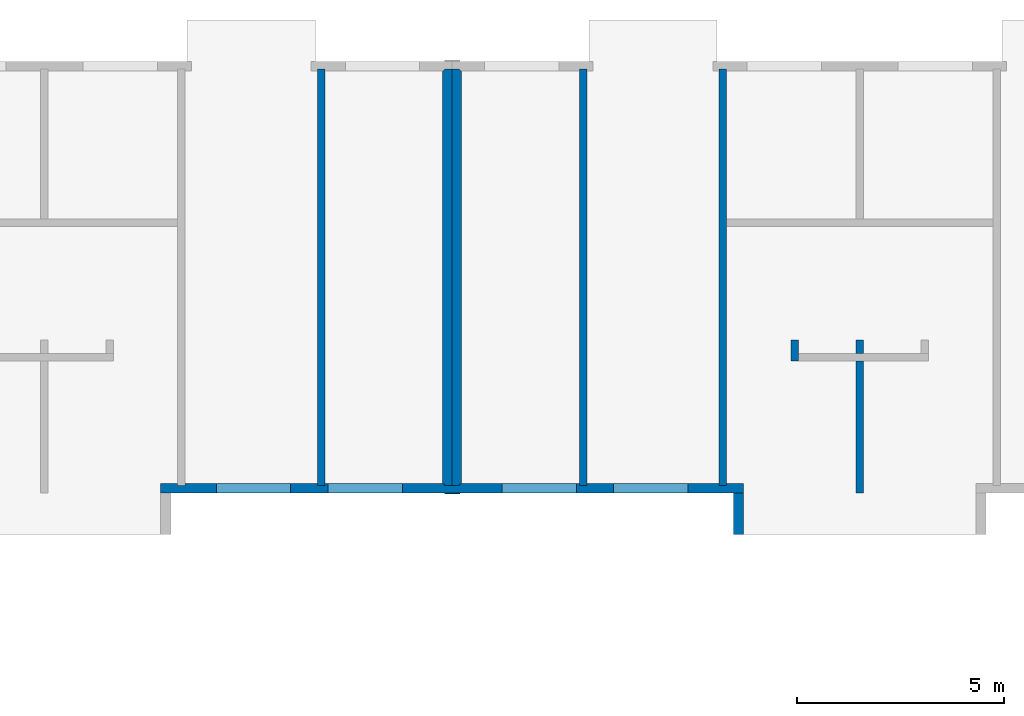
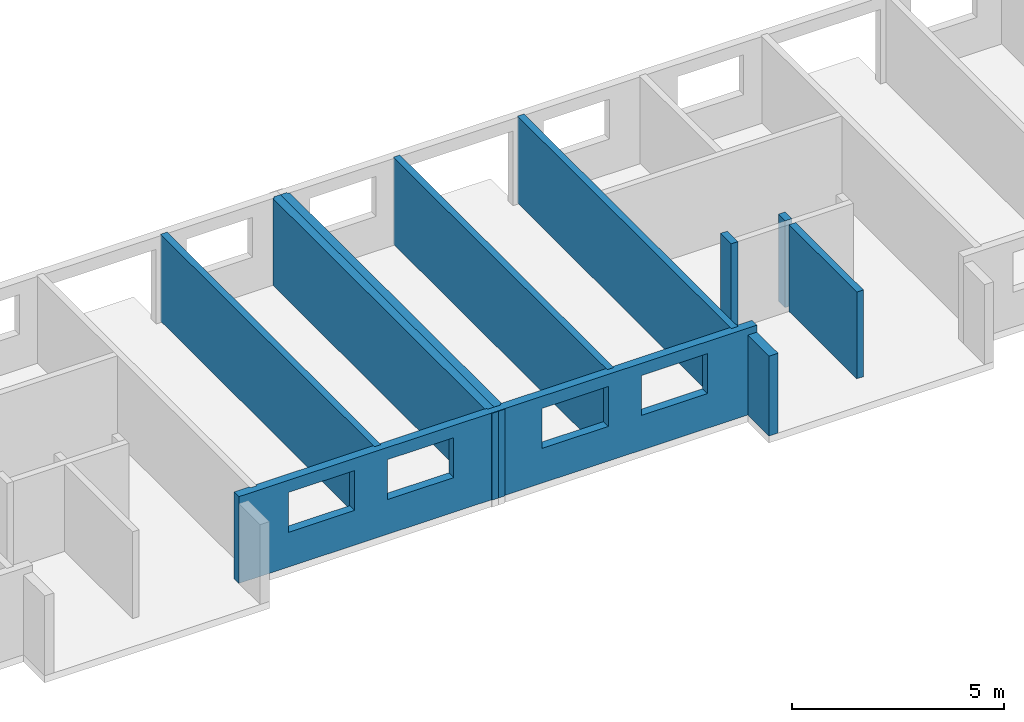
# One storey, part 3 of 9: 12 walls, 4 openings.
"""IFC2X3 building model written with IfcOpenShell, lengths in millimetres."""

from ifc_helpers import new_model, entity, si_unit, converted_unit, frame, frame_2d, origin, origin_with_axes, place, context, subcontext, project, spatial, polyline, rectangle, outline, extrude, material, layer, layer_set, layer_usage, element, save


model = new_model("IFC2X3")

# Units and contexts
model_context = context("Model", 3, precision=1e-05, world=origin())
plan_context = context("Plan", 3, precision=1e-05, world=origin())
body_context = subcontext(model_context, "Body", "Model", "MODEL_VIEW")
ifc_project = project(units=[si_unit("LENGTHUNIT", "METRE", prefix="MILLI"), converted_unit("PLANEANGLEUNIT", "DEGREE", entity("IfcPlaneAngleMeasure", 0.0174532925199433), si_unit("PLANEANGLEUNIT", "RADIAN"), dimensions=[0, 0, 0, 0, 0, 0, 0]), si_unit("AREAUNIT", "SQUARE_METRE"), si_unit("VOLUMEUNIT", "CUBIC_METRE")], contexts=[model_context, plan_context])

# Building, storey
building_placement = place(None, origin())
building = spatial("IfcBuilding", under=ifc_project, at=building_placement, Name="Bâtiment", CompositionType="ELEMENT")
storey_placement = place(building_placement, origin_with_axes())
storey = spatial("IfcBuildingStorey", under=building, at=storey_placement, Name="rdc", CompositionType="ELEMENT", Elevation=0.0)

# Walls
ifc_material_1 = material(Name="moellons")
ifc_layer_1 = layer(ifc_material_1, 180.0)
ifc_material_2 = material(Name="briquettes")
ifc_layer_2 = layer(ifc_material_2, 40.0)
ifc_material_3 = material(Name="enduit platre")
ifc_layer_3 = layer(ifc_material_3, 10.0)
ifc_layer_set_1 = layer_set([ifc_layer_1, ifc_layer_2, ifc_layer_3])
ifc_layer_usage_1 = layer_usage(ifc_layer_set_1, "AXIS2", "POSITIVE", 0.0)
wall_1_placement = place(storey_placement, frame((19849.99999999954, 10290.07776548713, 0.0), z_axis=(0.0, 0.0, 1.0), x_axis=(-3.605559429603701e-16, -1.0, 0.0)))
element("IfcWallStandardCase", 1, at=wall_1_placement, inside=storey, material=ifc_layer_usage_1, context=body_context, shape_type="SweptSolid", body=[
    extrude(outline(polyline([(0.0, 0.0), (10089.91497192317, 0.0), (10089.91497192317, 180.0), (10049.91497192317, 180.0), (10049.91497192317, 220.0), (10039.91497192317, 220.0), (10039.91497192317, 230.0), (49.99999999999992, 230.0), (49.99999999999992, 220.0), (39.99999999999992, 220.0), (39.99999999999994, 180.0), (-6.490006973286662e-14, 180.0), (0.0, 0.0)])), origin_with_axes(), (0.0, 0.0, 1.0), 2500.0),
])
ifc_material_4 = material(Name="moellons")
ifc_layer_4 = layer(ifc_material_4, 180.0)
ifc_material_5 = material(Name="briquettes")
ifc_layer_5 = layer(ifc_material_5, 40.0)
ifc_material_6 = material(Name="enduit platre")
ifc_layer_6 = layer(ifc_material_6, 10.0)
ifc_layer_set_2 = layer_set([ifc_layer_4, ifc_layer_5, ifc_layer_6])
ifc_layer_usage_2 = layer_usage(ifc_layer_set_2, "AXIS2", "POSITIVE", 0.0)
wall_2_placement = place(storey_placement, frame((19849.99999999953, 200.16279356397, 0.0), z_axis=(0.0, 0.0, 1.0), x_axis=(0.0, 1.0, 0.0)))
element("IfcWallStandardCase", 2, at=wall_2_placement, inside=storey, material=ifc_layer_usage_2, context=body_context, shape_type="SweptSolid", body=[
    extrude(outline(polyline([(0.0, 0.0), (10089.91497192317, 0.0), (10089.91497192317, 180.0), (10049.91497192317, 180.0), (10049.91497192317, 220.0), (10039.91497192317, 220.0), (10039.91497192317, 230.0), (50.0, 230.0), (50.0, 220.0), (40.0, 220.0), (40.0, 180.0), (0.0, 180.0), (0.0, 0.0)])), origin_with_axes(), (0.0, 0.0, 1.0), 2500.0),
])
ifc_material_7 = material(Name="moellons")
ifc_layer_7 = layer(ifc_material_7, 20.16279356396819)
ifc_layer_set_3 = layer_set([ifc_layer_7])
ifc_layer_usage_3 = layer_usage(ifc_layer_set_3, "AXIS2", "POSITIVE", 0.0)
wall_3_placement = place(storey_placement, frame((20029.99999999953, 1.818989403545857e-12, 0.0), z_axis=(0.0, 0.0, 1.0), x_axis=(-1.0, 0.0, 0.0)))
element("IfcWallStandardCase", 3, at=wall_3_placement, inside=storey, material=ifc_layer_usage_3, context=body_context, shape_type="SweptSolid", body=[
    extrude(rectangle(XDim=180.0, YDim=20.16279356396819, at=frame_2d((90.0, 10.0813967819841), x_axis=(1.0, 0.0))), frame((0.0, -20.16279356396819, 0.0), z_axis=(0.0, 0.0, 1.0), x_axis=(1.0, 0.0, 0.0)), (0.0, 0.0, 1.0), 2500.0),
])
ifc_material_8 = material(Name="moellons")
ifc_layer_8 = layer(ifc_material_8, 20.16279356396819)
ifc_layer_set_4 = layer_set([ifc_layer_8])
ifc_layer_usage_4 = layer_usage(ifc_layer_set_4, "AXIS2", "POSITIVE", 0.0)
wall_4_placement = place(storey_placement, frame((19849.99999999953, 1.818989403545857e-12, 0.0), z_axis=(0.0, 0.0, 1.0), x_axis=(-1.0, 0.0, 0.0)))
element("IfcWallStandardCase", 4, at=wall_4_placement, inside=storey, material=ifc_layer_usage_4, context=body_context, shape_type="SweptSolid", body=[
    extrude(rectangle(XDim=180.0, YDim=20.16279356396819, at=frame_2d((90.0, 10.0813967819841), x_axis=(1.0, 0.0))), frame((0.0, -20.16279356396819, 0.0), z_axis=(0.0, 0.0, 1.0), x_axis=(1.0, 0.0, 0.0)), (0.0, 0.0, 1.0), 2500.0),
])
ifc_material_9 = material(Name="moellons")
ifc_layer_9 = layer(ifc_material_9, 180.0)
ifc_layer_set_5 = layer_set([ifc_layer_9])
ifc_layer_usage_5 = layer_usage(ifc_layer_set_5, "AXIS2", "POSITIVE", 0.0)
wall_5_placement = place(storey_placement, frame((16770.00000000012, 200.0775509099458, 0.0), z_axis=(0.0, 0.0, 1.0), x_axis=(0.0, 1.0, 0.0)))
element("IfcWallStandardCase", 5, at=wall_5_placement, inside=storey, material=ifc_layer_usage_5, context=body_context, shape_type="SweptSolid", body=[
    extrude(rectangle(XDim=10090.00021457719, YDim=180.0, at=frame_2d((5045.000107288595, 90.0), x_axis=(1.0, 0.0))), origin_with_axes(), (0.0, 0.0, 1.0), 2500.0),
])
ifc_material_10 = material(Name="moellons")
ifc_layer_10 = layer(ifc_material_10, 180.0)
ifc_layer_set_6 = layer_set([ifc_layer_10])
ifc_layer_usage_6 = layer_usage(ifc_layer_set_6, "AXIS2", "POSITIVE", 0.0)
wall_6_placement = place(storey_placement, frame((23109.99999999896, 200.077550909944, 0.0), z_axis=(0.0, 0.0, 1.0), x_axis=(0.0, 1.0, 0.0)))
element("IfcWallStandardCase", 6, at=wall_6_placement, inside=storey, material=ifc_layer_usage_6, context=body_context, shape_type="SweptSolid", body=[
    extrude(rectangle(XDim=10090.00021457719, YDim=180.0, at=frame_2d((5045.000107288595, 90.0), x_axis=(1.0, 0.0))), origin_with_axes(), (0.0, 0.0, 1.0), 2500.0),
])
ifc_material_11 = material(Name="moellons")
ifc_layer_11 = layer(ifc_material_11, 180.0)
ifc_layer_set_7 = layer_set([ifc_layer_11])
ifc_layer_usage_7 = layer_usage(ifc_layer_set_7, "AXIS2", "POSITIVE", 0.0)
wall_7_placement = place(storey_placement, frame((26490.00006176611, 200.077550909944, 0.0), z_axis=(0.0, 0.0, 1.0), x_axis=(0.0, 1.0, 0.0)))
element("IfcWallStandardCase", 7, at=wall_7_placement, inside=storey, material=ifc_layer_usage_7, context=body_context, shape_type="SweptSolid", body=[
    extrude(rectangle(XDim=10090.00021457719, YDim=180.0, at=frame_2d((5045.000107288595, 90.0), x_axis=(1.0, 0.0))), origin_with_axes(), (0.0, 0.0, 1.0), 2500.0),
])
ifc_material_12 = material(Name="moellons")
ifc_layer_12 = layer(ifc_material_12, 180.0)
ifc_layer_set_8 = layer_set([ifc_layer_12])
ifc_layer_usage_8 = layer_usage(ifc_layer_set_8, "AXIS2", "POSITIVE", 0.0)
wall_8_placement = place(storey_placement, frame((29804.99999999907, 20.03893477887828, 0.0), z_axis=(0.0, 0.0, 1.0), x_axis=(0.0, 1.0, 0.0)))
element("IfcWallStandardCase", 8, at=wall_8_placement, inside=storey, material=ifc_layer_usage_8, context=body_context, shape_type="SweptSolid", body=[
    extrude(outline(polyline([(0.0, 0.0), (3200.038830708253, 0.0), (3200.038830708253, 180.0), (-0.0007169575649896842, 180.0), (0.0, 0.0)])), origin_with_axes(), (0.0, 0.0, 1.0), 2500.0),
])
ifc_material_13 = material(Name="moellons")
ifc_layer_13 = layer(ifc_material_13, 180.0)
ifc_layer_set_9 = layer_set([ifc_layer_13])
ifc_layer_usage_9 = layer_usage(ifc_layer_set_9, "AXIS2", "POSITIVE", 0.0)
wall_9_placement = place(storey_placement, frame((29804.99999999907, 20.03893477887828, 0.0), z_axis=(0.0, 0.0, 1.0), x_axis=(0.0, 1.0, 0.0)))
element("IfcWallStandardCase", 9, at=wall_9_placement, inside=storey, material=ifc_layer_usage_9, context=body_context, shape_type="SweptSolid", body=[
    extrude(outline(polyline([(3380.038830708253, 0.0), (3700.038830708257, 0.0), (3700.038830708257, 180.0), (3380.038830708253, 180.0), (3380.038830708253, 0.0)])), origin_with_axes(), (0.0, 0.0, 1.0), 2500.0),
])
ifc_material_14 = material(Name="moellons")
ifc_layer_14 = layer(ifc_material_14, 180.0)
ifc_layer_set_10 = layer_set([ifc_layer_14])
ifc_layer_usage_10 = layer_usage(ifc_layer_set_10, "AXIS2", "POSITIVE", 0.0)
wall_10_placement = place(storey_placement, frame((28229.99951490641, 3220.077765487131, 0.0), z_axis=(0.0, 0.0, 1.0), x_axis=(0.0, 1.0, 0.0)))
element("IfcWallStandardCase", 10, at=wall_10_placement, inside=storey, material=ifc_layer_usage_10, context=body_context, shape_type="SweptSolid", body=[
    extrude(rectangle(XDim=500.0, YDim=180.0, at=frame_2d((250.0, 90.0), x_axis=(1.0, 0.0))), origin_with_axes(), (0.0, 0.0, 1.0), 2500.0),
])

# Wall, openings
ifc_material_15 = material(Name="moellons")
ifc_layer_15 = layer(ifc_material_15, 180.0)
ifc_material_16 = material(Name="briquettes")
ifc_layer_16 = layer(ifc_material_16, 40.0)
ifc_material_17 = material(Name="enduit platre")
ifc_layer_17 = layer(ifc_material_17, 10.0)
ifc_layer_set_11 = layer_set([ifc_layer_15, ifc_layer_16, ifc_layer_17])
ifc_layer_usage_11 = layer_usage(ifc_layer_set_11, "AXIS2", "POSITIVE", 0.0)
wall_11_placement = place(storey_placement, frame((12795.00000000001, 20.16279356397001, 0.0), z_axis=(0.0, 0.0, 1.0), x_axis=(1.0, 0.0, 0.0)))
wall_11 = element("IfcWallStandardCase", 11, at=wall_11_placement, inside=storey, material=ifc_layer_usage_11, context=body_context, shape_type="SweptSolid", body=[
    extrude(outline(polyline([(7274.999999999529, 230.0), (7274.999999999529, 220.0), (7234.999999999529, 220.0), (7234.999999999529, 180.0), (6874.999999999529, 180.0), (6874.999999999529, 220.0), (6834.999999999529, 220.0), (6834.999999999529, 230.0), (3975.000000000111, 230.0), (3975.000000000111, 179.9147573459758), (3795.000000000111, 179.9147573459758), (3795.000000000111, 230.0), (594.9999381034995, 230.0), (594.9999381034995, 179.9147573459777), (414.9999381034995, 179.9147573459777), (414.9999381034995, 230.0), (0.0, 230.0), (0.0, 0.0), (14110.00054685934, 0.0), (14110.00054685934, 230.0), (13695.0000617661, 230.0), (13695.0000617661, 179.914757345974), (13515.0000617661, 179.914757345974), (13515.0000617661, 230.0), (10314.99999999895, 230.0), (10314.99999999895, 179.914757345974), (10134.99999999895, 179.914757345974), (10134.99999999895, 230.0), (7274.999999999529, 230.0)])), origin_with_axes(), (0.0, 0.0, 1.0), 2500.0),
])
opening_1_placement = place(wall_11_placement, frame((1349.999999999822, 0.0, 1000.0), z_axis=(0.0, 1.0, 0.0), x_axis=(0.0, 0.0, 1.0)))
element("IfcOpeningElement", 12, at=opening_1_placement, cuts=wall_11, Name="Baie de fenêtre", ObjectType="Opening", context=body_context, shape_type="SweptSolid", body=[
    extrude(rectangle(XDim=1150.0, YDim=1800.0, at=frame_2d((575.0, 900.0), x_axis=(1.0, 0.0))), origin_with_axes(), (0.0, 0.0, 1.0), 230.0),
])
opening_2_placement = place(wall_11_placement, frame((4049.999999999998, 0.0, 1000.0), z_axis=(0.0, 1.0, 0.0), x_axis=(0.0, 0.0, 1.0)))
element("IfcOpeningElement", 13, at=opening_2_placement, cuts=wall_11, Name="Baie de fenêtre", ObjectType="Opening", context=body_context, shape_type="SweptSolid", body=[
    extrude(rectangle(XDim=1150.0, YDim=1800.0, at=frame_2d((575.0, 900.0), x_axis=(1.0, 0.0))), origin_with_axes(), (0.0, 0.0, 1.0), 230.0),
])
opening_3_placement = place(wall_11_placement, frame((8259.99999999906, 0.0, 1000.0), z_axis=(0.0, 1.0, 0.0), x_axis=(0.0, 0.0, 1.0)))
element("IfcOpeningElement", 14, at=opening_3_placement, cuts=wall_11, Name="Baie de fenêtre", ObjectType="Opening", context=body_context, shape_type="SweptSolid", body=[
    extrude(rectangle(XDim=1150.0, YDim=1800.0, at=frame_2d((575.0, 900.0), x_axis=(1.0, 0.0))), origin_with_axes(), (0.0, 0.0, 1.0), 230.0),
])
opening_4_placement = place(wall_11_placement, frame((10959.99999999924, 0.0, 1000.0), z_axis=(0.0, 1.0, 0.0), x_axis=(0.0, 0.0, 1.0)))
element("IfcOpeningElement", 15, at=opening_4_placement, cuts=wall_11, Name="Baie de fenêtre", ObjectType="Opening", context=body_context, shape_type="SweptSolid", body=[
    extrude(rectangle(XDim=1150.0, YDim=1800.0, at=frame_2d((575.0, 900.0), x_axis=(1.0, 0.0))), origin_with_axes(), (0.0, 0.0, 1.0), 230.0),
])

# Wall
ifc_material_18 = material(Name="moellons")
ifc_layer_18 = layer(ifc_material_18, 250.0)
ifc_layer_set_12 = layer_set([ifc_layer_18])
ifc_layer_usage_12 = layer_usage(ifc_layer_set_12, "AXIS2", "POSITIVE", 0.0)
wall_12_placement = place(storey_placement, frame((26905.00054685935, -979.8369918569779, 0.0), z_axis=(0.0, 0.0, 1.0), x_axis=(0.0, 1.0, 0.0)))
element("IfcWallStandardCase", 16, at=wall_12_placement, inside=storey, material=ifc_layer_usage_12, context=body_context, shape_type="SweptSolid", body=[
    extrude(rectangle(XDim=999.9997854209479, YDim=250.0, at=frame_2d((499.9998927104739, 125.0), x_axis=(1.0, 0.0))), origin_with_axes(), (0.0, 0.0, 1.0), 2300.000000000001),
])

save(model, "model.ifc")
